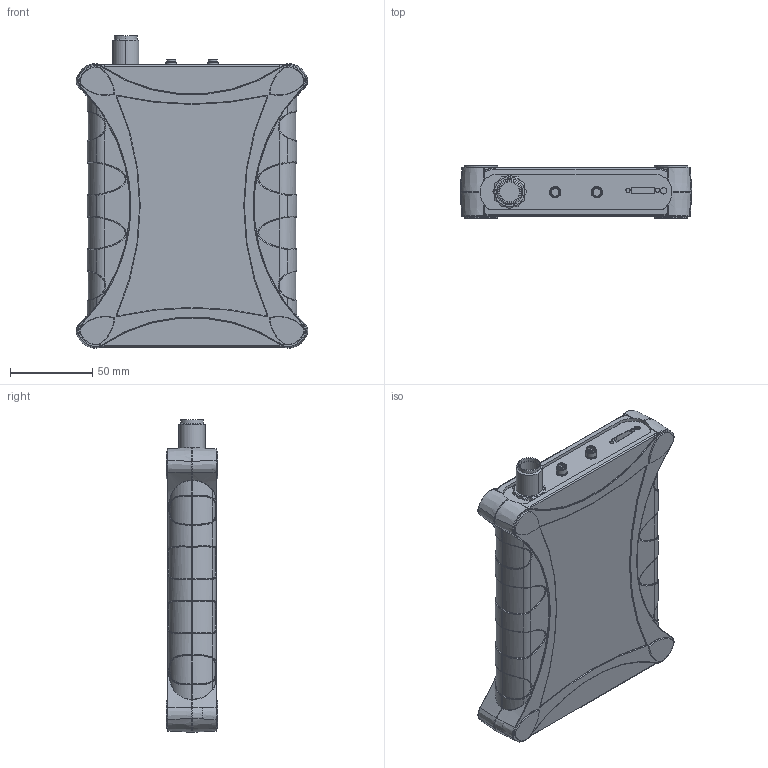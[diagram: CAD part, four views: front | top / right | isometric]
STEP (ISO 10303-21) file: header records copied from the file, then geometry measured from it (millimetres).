
FILE_DESCRIPTION((''),'2;1');
FILE_NAME('MASTER_REPLAY_RPL_ASM','2024-09-03T14:26:57',('mthomps2'),(''),'CREO PARAMETRIC BY PTC INC, 2022284','CREO PARAMETRIC BY PTC INC, 2022284','');
FILE_SCHEMA(('CONFIG_CONTROL_DESIGN','SHAPE_APPEARANCE_LAYERS_GROUPS'));
Length unit declared in the file: inch
Products named in the file (15): CONN_JACK_RF_EDG_N-TYPE_CUR; NUT_WITH_131-9323-00_CUR; CONN_JACK_RF_EDGE_N-TYPE_CUR_ASM; CONN_SMA_EDGE_062_SMT_F_WKM_2; PCB_INTEGRATION_CUR_ASM; COVER_PLASTIC_TOP_RPL; CUSHION_INTERNAL_RPL; COVER_PLASTIC_BTM_RPL; SCREW_DELTA-PT_M3X12_RPL; FOOT_CORNER_RPL; LABEL_TOP_RPL; MODULE_COVER_PLASTIC_RPL_ASM; LABEL_FRONT_RPL; LABEL_REAR_RPL_R02; MASTER_REPLAY_RPL_ASM
Assembly tree (37 placements, depth 4):
  MASTER_REPLAY_RPL_ASM
    PCB_INTEGRATION_CUR_ASM
      CONN_JACK_RF_EDGE_N-TYPE_CUR_ASM
        CONN_JACK_RF_EDG_N-TYPE_CUR
        NUT_WITH_131-9323-00_CUR  x2
      CONN_SMA_EDGE_062_SMT_F_WKM_2  x2
    MODULE_COVER_PLASTIC_RPL_ASM
      COVER_PLASTIC_TOP_RPL
      CUSHION_INTERNAL_RPL  x12
      COVER_PLASTIC_BTM_RPL
      SCREW_DELTA-PT_M3X12_RPL  x4
      FOOT_CORNER_RPL  x8
      LABEL_TOP_RPL
    LABEL_FRONT_RPL
    LABEL_REAR_RPL_R02
Bounding box: 140.97 x 31.65 x 190.3 mm (x, y, z)
Volume: 120937.6 mm3; surface area: 143346.5 mm2
Topology: 34 solids, 34 shells, 4885 faces, 11943 edges, 7190 vertices
Faces by surface type: bspline 2125, cylinder 1115, plane 627, torus 537, cone 320, sphere 117, revolution 24, extrusion 20
Entity records: 262360 total; most frequent: CARTESIAN_POINT 124279, ORIENTED_EDGE 19442, DIRECTION 14234, PRESENTATION_STYLE_ASSIGNMENT 13365, STYLED_ITEM 13365, EDGE_CURVE 9721, CURVE_STYLE 9532, AXIS2_PLACEMENT_3D 6008
